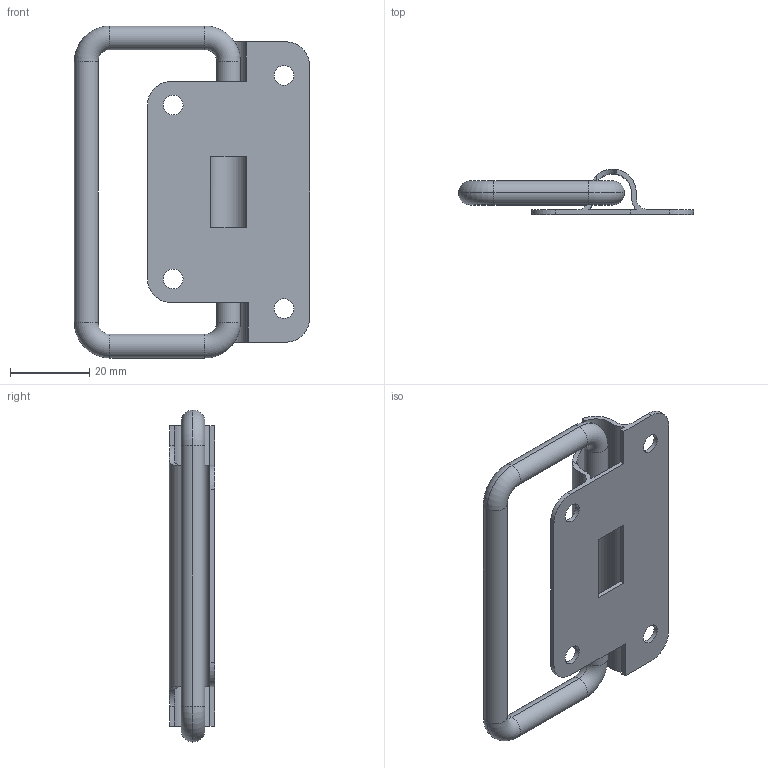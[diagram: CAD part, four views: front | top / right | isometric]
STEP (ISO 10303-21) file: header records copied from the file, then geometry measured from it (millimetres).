
FILE_DESCRIPTION (( 'STEP AP203' ), '1' );
FILE_NAME ('E18-21802.STEP', '2025-07-16T00:43:46', ( '' ), ( '' ), 'SwSTEP 2.0', 'SolidWorks 2021', '' );
FILE_SCHEMA (( 'CONFIG_CONTROL_DESIGN' ));
Length unit declared in the file: millimetre
Products named in the file (3): E18-21802-1; E18-21802; E18-21802-2
Assembly tree (2 placements, depth 2):
  E18-21802
    E18-21802-1
    E18-21802-2
Bounding box: 59.5 x 11.5 x 84 mm (x, y, z)
Volume: 9719.3 mm3; surface area: 11665.8 mm2
Topology: 2 solids, 2 shells, 62 faces, 164 edges, 104 vertices
Faces by surface type: cylinder 30, plane 24, torus 8
Entity records: 2339 total; most frequent: CARTESIAN_POINT 425, DIRECTION 362, ORIENTED_EDGE 328, EDGE_CURVE 164, AXIS2_PLACEMENT_3D 135, VERTEX_POINT 104, VECTOR 92, LINE 92
